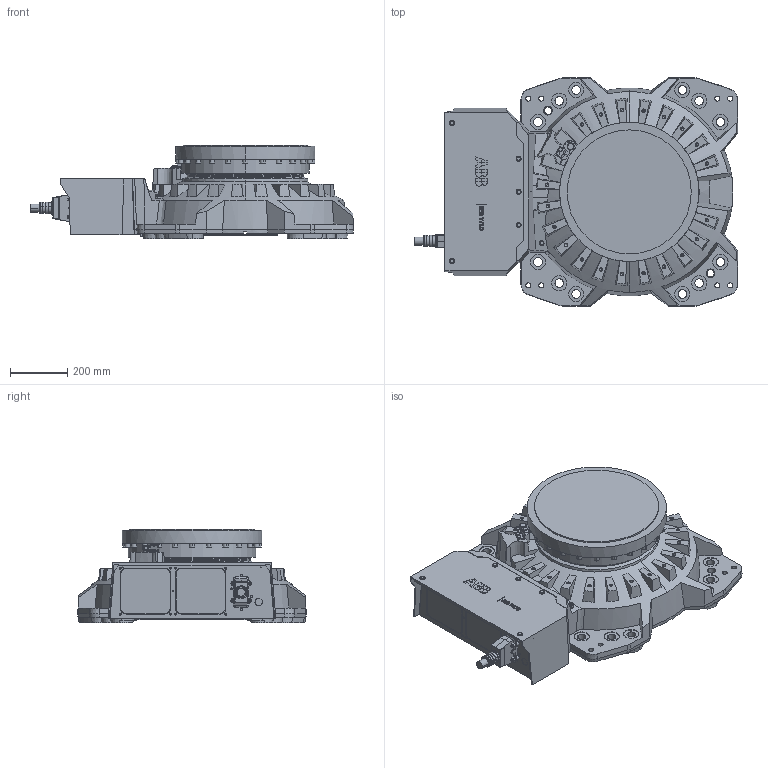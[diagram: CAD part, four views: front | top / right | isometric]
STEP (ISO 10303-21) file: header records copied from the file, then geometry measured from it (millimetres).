
FILE_DESCRIPTION (( 'STEP AP214' ), '1' );
FILE_NAME ('IRB7710_360kg-330_OC_00_BASE_CAD1.STEP', '2023-09-26T07:51:31', ( '' ), ( '' ), 'SwSTEP 2.0', 'SolidWorks 2022', '' );
FILE_SCHEMA (( 'AUTOMOTIVE_DESIGN' ));
Length unit declared in the file: millimetre
Products named in the file (1): IRB7710_360kg-330_OC_00_BASE_CAD1
Bounding box: 1124.5 x 795 x 327 mm (x, y, z)
Volume: 112946842.2 mm3; surface area: 2943675.7 mm2
Topology: 1 solids, 1 shells, 1365 faces, 3391 edges, 2156 vertices
Faces by surface type: plane 680, cylinder 372, cone 269, bspline 32, torus 8, sphere 4
Entity records: 46862 total; most frequent: CARTESIAN_POINT 10650, DIRECTION 6727, ORIENTED_EDGE 6694, EDGE_CURVE 3347, AXIS2_PLACEMENT_3D 2434, VERTEX_POINT 2156, VECTOR 1859, LINE 1859
